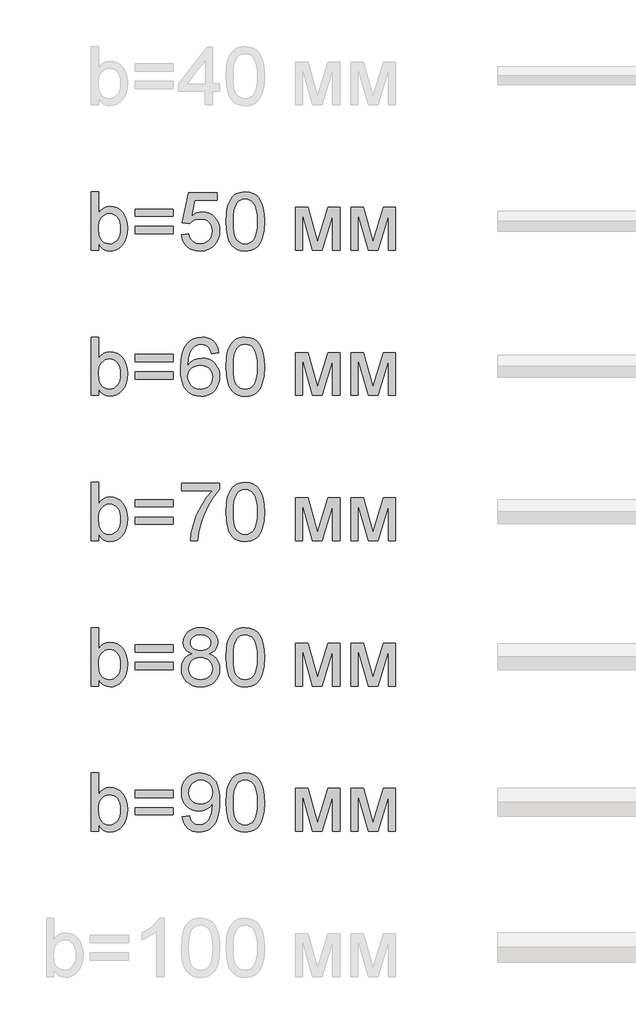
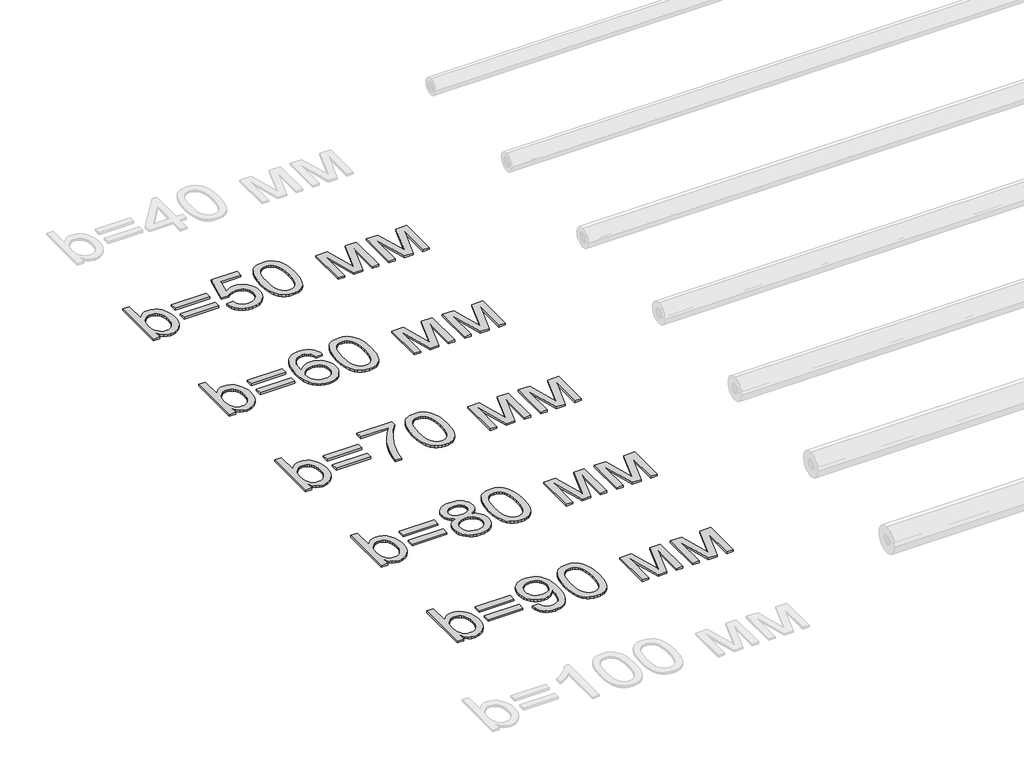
# One storey, part 51 of 86: 5 proxies.
"""IFC4 building model written with IfcOpenShell, lengths in millimetres."""

from ifc_helpers import new_model, si_unit, origin, origin_with_axes, place, context, project, spatial, polyline, outline, extrude, element, save

model = new_model("IFC4")

# Units and contexts
model_context = context("Model", 3, world=origin())
ifc_project = project(units=[si_unit("LENGTHUNIT", "METRE", prefix="MILLI")], contexts=[model_context])

# Site, building, storey
site = spatial("IfcSite", under=ifc_project)
building = spatial("IfcBuilding", under=site)
storey = spatial("IfcBuildingStorey", under=building, Name="Уровень 1", Elevation=0.0)

# Proxies
placement = place(None, origin())
element("IfcBuildingElementProxy", 1, Name="Текст модели 1", ObjectType="Текст модели 1", at=placement, inside=storey, context=model_context, shape_type="SweptSolid", body=[
    extrude(outline(polyline([(23159.6307988, 23169.2937088), (23084.2885662, 23169.2937088), (23084.2885662, 23772.0315697), (23159.6307988, 23772.0315697), (23159.6307988, 23548.5064694), (23184.4076512, 23580.3742473), (23212.3850769, 23603.1369457), (23243.563076, 23616.7945648), (23277.9416484, 23621.3471045), (23316.7531989, 23617.2452202), (23353.4310339, 23604.9395675), (23385.8782258, 23585.2026984), (23411.9978475, 23558.8071653), (23432.4704805, 23526.0104854), (23447.9767066, 23487.0701762), (23457.7439736, 23443.6049185), (23460.9997292, 23397.233393), (23457.6290105, 23343.7249568), (23447.5168541, 23296.6544555), (23430.6632602, 23256.0218892), (23407.0682288, 23221.8272577), (23378.7459136, 23194.7235517), (23347.7104688, 23175.3637617), (23313.9618943, 23163.7478877), (23277.50019, 23159.8759297), (23241.9903805, 23164.8699278), (23210.5088787, 23179.8519221), (23183.0556848, 23204.8219125), (23159.6307988, 23239.7798991), (23159.6307988, 23169.2937088)]), holes=[polyline([(23159.6307988, 23393.7017259), (23164.7811467, 23330.8674811), (23171.2190816, 23307.065516), (23180.2321905, 23288.3403224), (23198.4883345, 23265.0993774), (23219.7059286, 23248.4987024), (23243.8849727, 23238.5382973), (23271.0254669, 23235.2181623), (23293.5582391, 23237.6645776), (23314.5091188, 23245.0038234), (23333.8781058, 23257.2358997), (23351.6652003, 23274.3608066), (23366.5368299, 23296.3325588), (23377.1594225, 23323.105171), (23383.5329781, 23354.6786432), (23385.6574966, 23391.0529755), (23383.6203501, 23428.1170865), (23377.5089104, 23459.9940614), (23367.3231777, 23486.6839001), (23353.0631519, 23508.1866028), (23335.9152524, 23524.7320955), (23317.0658986, 23536.5503046), (23296.5150907, 23543.64123), (23274.2628285, 23546.0048719), (23251.7300563, 23543.5584566), (23230.7791767, 23536.2192108), (23211.4101896, 23523.9871344), (23193.6230951, 23506.8622276), (23178.7514655, 23485.1112046), (23168.1288729, 23459.00078), (23161.7553173, 23428.5309538), (23159.6307988, 23393.7017259)])]), origin_with_axes(), (0.0, 0.0, 1.0), 20.0),
    extrude(outline(polyline([(23931.8886831, 23517.7515346), (23536.3419619, 23517.7515346), (23536.3419619, 23593.0937672), (23931.8886831, 23593.0937672), (23931.8886831, 23517.7515346)])), origin_with_axes(), (0.0, 0.0, 1.0), 20.0),
    extrude(outline(polyline([(23931.8886831, 23338.8137322), (23536.3419619, 23338.8137322), (23536.3419619, 23414.1559648), (23931.8886831, 23414.1559648), (23931.8886831, 23338.8137322)])), origin_with_axes(), (0.0, 0.0, 1.0), 20.0),
    extrude(outline(polyline([(24016.6486948, 23329.3959531), (24091.9909274, 23338.8137322), (24097.6195219, 23314.5933013), (24105.8232904, 23293.5826409), (24116.6022328, 23275.7817508), (24129.9563493, 23261.1906312), (24145.8580485, 23249.8276761), (24164.2797394, 23241.7112795), (24185.221422, 23236.8414416), (24208.6830962, 23235.2181623), (24237.3778919, 23237.4760381), (24262.6881731, 23244.2496653), (24284.61394, 23255.539044), (24303.1551926, 23271.3441743), (24317.8980636, 23290.8833067), (24328.4286857, 23313.3746922), (24334.7470589, 23338.8183307), (24336.8531834, 23367.2142222), (24334.8804162, 23394.0512138), (24328.9621146, 23417.9083611), (24319.0982786, 23438.7856644), (24305.2889082, 23456.6831234), (24287.4880181, 23471.0397183), (24265.6496232, 23481.2944289), (24239.7737234, 23487.4472553), (24209.8603186, 23489.4981974), (24173.3112424, 23486.2240476), (24143.7151359, 23476.4015984), (24120.0787177, 23461.3552248), (24101.4087064, 23442.409302), (24026.0664738, 23451.8270811), (24091.9909274, 23762.6137906), (24383.9420787, 23762.6137906), (24383.9420787, 23687.271558), (24152.9121858, 23687.271558), (24120.685723, 23521.2832018), (24147.2743942, 23540.3394891), (24174.5068589, 23553.951123), (24202.3831171, 23562.1181032), (24230.9031687, 23564.84043), (24267.5947992, 23561.4651127), (24301.2973885, 23551.3391608), (24332.0109366, 23534.4625743), (24359.7354435, 23510.8353531), (24382.6866814, 23481.9014342), (24399.0804228, 23449.1047543), (24408.9166677, 23412.4453135), (24412.195416, 23371.9231117), (24409.243163, 23332.8908321), (24400.3864039, 23296.5808791), (24385.6251389, 23262.993253), (24364.9593678, 23232.1279536), (24333.65261, 23200.5176931), (24297.1219279, 23177.9389357), (24255.3673214, 23164.3916812), (24208.3887906, 23159.8759297), (24169.5082623, 23162.777599), (24134.3893273, 23171.4826067), (24103.0319858, 23185.9909529), (24075.4362376, 23206.3026375), (24052.4758026, 23231.4059852), (24035.0244004, 23260.2893203), (24023.0820311, 23292.952643), (24016.6486948, 23329.3959531)])), origin_with_axes(), (0.0, 0.0, 1.0), 20.0),
    extrude(outline(polyline([(24478.1198695, 23465.8065969), (24483.6564935, 23562.2836501), (24490.5772736, 23603.1967265), (24500.2663656, 23639.2261694), (24512.682383, 23670.6662845), (24527.7839389, 23697.8113772), (24545.5710333, 23720.6614476), (24566.0436664, 23739.2164957), (24589.2708158, 23753.5730906), (24615.3214596, 23763.8278012), (24644.1955977, 23769.9806276), (24675.8932301, 23772.0315697), (24722.3199379, 23767.1755274), (24763.8906034, 23752.6074004), (24798.6554519, 23728.8974058), (24824.664709, 23696.6157607), (24844.3096075, 23656.0383766), (24859.9813805, 23607.4411651), (24870.2452882, 23545.7289604), (24873.6665907, 23465.8065969), (24868.185149, 23369.8813667), (24861.3333468, 23329.106246), (24851.7408238, 23293.1227884), (24839.4213755, 23261.6688778), (24824.3887975, 23234.4823983), (24806.6430897, 23211.56335), (24786.1842523, 23192.9117329), (24762.9295116, 23178.458569), (24736.7960944, 23168.1348805), (24707.7840006, 23161.9406674), (24675.8932301, 23159.8759297), (24634.3961411, 23163.4627792), (24597.6079415, 23174.2233275), (24565.5286316, 23192.1575748), (24538.1582111, 23217.265521), (24511.8914367, 23262.6529621), (24493.1294549, 23319.2056218), (24481.8722659, 23386.9235001), (24478.1198695, 23465.8065969)]), holes=[polyline([(24553.4621021, 23465.9537497), (24555.6693941, 23400.456959), (24562.29127, 23347.440565), (24573.3277299, 23306.9045676), (24588.7787737, 23278.848967), (24607.467179, 23259.7604899), (24628.2157235, 23246.1258635), (24651.0244072, 23237.9450876), (24675.8932301, 23235.2181623), (24700.762053, 23237.9542847), (24723.5707367, 23246.1626517), (24744.3192812, 23259.8432634), (24763.0076866, 23278.9961198), (24778.4587304, 23307.0977057), (24789.4951902, 23347.624506), (24796.1170661, 23400.5765206), (24798.3243581, 23465.9537497), (24796.1906425, 23529.7168965), (24789.7894958, 23581.79979), (24779.120918, 23622.2024301), (24764.184909, 23650.9248169), (24745.8092033, 23670.9467945), (24724.8215355, 23685.248207), (24701.2219055, 23693.8290546), (24675.0103133, 23696.6893371), (24650.2702492, 23694.1693454), (24627.8478415, 23686.6093704), (24607.7430905, 23674.0094121), (24589.955996, 23656.3694704), (24573.9899175, 23625.0995008), (24562.5855756, 23582.9402242), (24555.7429705, 23529.8916405), (24553.4621021, 23465.9537497)])]), origin_with_axes(), (0.0, 0.0, 1.0), 20.0),
    extrude(outline(polyline([(25193.8710793, 23611.9293254), (25323.5126944, 23611.9293254), (25423.4294443, 23257.5853876), (25531.1452925, 23611.9293254), (25655.3422541, 23611.9293254), (25655.3422541, 23169.2937088), (25580.0000215, 23169.2937088), (25580.0000215, 23525.6977857), (25471.6955621, 23169.2937088), (25372.8088818, 23169.2937088), (25269.2133119, 23542.7675103), (25269.2133119, 23169.2937088), (25193.8710793, 23169.2937088), (25193.8710793, 23611.9293254)])), origin_with_axes(), (0.0, 0.0, 1.0), 20.0),
    extrude(outline(polyline([(25768.355603, 23611.9293254), (25897.9972181, 23611.9293254), (25997.913968, 23257.5853876), (26105.6298162, 23611.9293254), (26229.8267777, 23611.9293254), (26229.8267777, 23169.2937088), (26154.4845451, 23169.2937088), (26154.4845451, 23525.6977857), (26046.1800857, 23169.2937088), (25947.2934054, 23169.2937088), (25843.6978356, 23542.7675103), (25843.6978356, 23169.2937088), (25768.355603, 23169.2937088), (25768.355603, 23611.9293254)])), origin_with_axes(), (0.0, 0.0, 1.0), 20.0),
])
element("IfcBuildingElementProxy", 2, Name="Текст модели 1", ObjectType="Текст модели 1", at=placement, inside=storey, context=model_context, shape_type="SweptSolid", body=[
    extrude(outline(polyline([(23159.6307988, 21669.2937088), (23084.2885662, 21669.2937088), (23084.2885662, 22272.0315697), (23159.6307988, 22272.0315697), (23159.6307988, 22048.5064694), (23184.4076512, 22080.3742473), (23212.3850769, 22103.1369457), (23243.563076, 22116.7945648), (23277.9416484, 22121.3471045), (23316.7531989, 22117.2452202), (23353.4310339, 22104.9395675), (23385.8782258, 22085.2026984), (23411.9978475, 22058.8071653), (23432.4704805, 22026.0104854), (23447.9767066, 21987.0701762), (23457.7439736, 21943.6049185), (23460.9997292, 21897.233393), (23457.6290105, 21843.7249568), (23447.5168541, 21796.6544555), (23430.6632602, 21756.0218892), (23407.0682288, 21721.8272577), (23378.7459136, 21694.7235517), (23347.7104688, 21675.3637617), (23313.9618943, 21663.7478877), (23277.50019, 21659.8759297), (23241.9903805, 21664.8699278), (23210.5088787, 21679.8519221), (23183.0556848, 21704.8219125), (23159.6307988, 21739.7798991), (23159.6307988, 21669.2937088)]), holes=[polyline([(23159.6307988, 21893.7017259), (23164.7811467, 21830.8674811), (23171.2190816, 21807.065516), (23180.2321905, 21788.3403224), (23198.4883345, 21765.0993774), (23219.7059286, 21748.4987024), (23243.8849727, 21738.5382973), (23271.0254669, 21735.2181623), (23293.5582391, 21737.6645776), (23314.5091188, 21745.0038234), (23333.8781058, 21757.2358997), (23351.6652003, 21774.3608066), (23366.5368299, 21796.3325588), (23377.1594225, 21823.105171), (23383.5329781, 21854.6786432), (23385.6574966, 21891.0529755), (23383.6203501, 21928.1170865), (23377.5089104, 21959.9940614), (23367.3231777, 21986.6839001), (23353.0631519, 22008.1866028), (23335.9152524, 22024.7320955), (23317.0658986, 22036.5503046), (23296.5150907, 22043.64123), (23274.2628285, 22046.0048719), (23251.7300563, 22043.5584566), (23230.7791767, 22036.2192108), (23211.4101896, 22023.9871344), (23193.6230951, 22006.8622276), (23178.7514655, 21985.1112046), (23168.1288729, 21959.00078), (23161.7553173, 21928.5309538), (23159.6307988, 21893.7017259)])]), origin_with_axes(), (0.0, 0.0, 1.0), 20.0),
    extrude(outline(polyline([(23931.8886831, 22017.7515346), (23536.3419619, 22017.7515346), (23536.3419619, 22093.0937672), (23931.8886831, 22093.0937672), (23931.8886831, 22017.7515346)])), origin_with_axes(), (0.0, 0.0, 1.0), 20.0),
    extrude(outline(polyline([(23931.8886831, 21838.8137322), (23536.3419619, 21838.8137322), (23536.3419619, 21914.1559648), (23931.8886831, 21914.1559648), (23931.8886831, 21838.8137322)])), origin_with_axes(), (0.0, 0.0, 1.0), 20.0),
    extrude(outline(polyline([(24402.7776369, 22111.9293254), (24327.4354043, 22102.5115463), (24315.2952984, 22139.8515688), (24298.8877615, 22165.3457911), (24282.6917566, 22179.0585925), (24264.7115241, 22188.8534506), (24244.9470639, 22194.7303655), (24223.398376, 22196.6893371), (24188.3760101, 22192.1276003), (24155.4137833, 22178.4423901), (24127.1052638, 22149.6188358), (24103.9838804, 22109.9427626), (24094.9477789, 22084.6370799), (24088.3672897, 22053.8223643), (24082.5731483, 21975.6658344), (24112.7946542, 22010.9273236), (24149.0126366, 22035.7777524), (24189.2037446, 22050.5114263), (24231.3446271, 22055.4226509), (24267.5442155, 22052.0657277), (24300.9479006, 22041.9949581), (24331.5556826, 22025.2103421), (24359.3675615, 22001.7118796), (24382.4797478, 21972.8975224), (24398.9884523, 21940.1652218), (24408.8936751, 21903.5149781), (24412.195416, 21862.9467911), (24410.6411145, 21835.4798016), (24405.9782103, 21808.9968965), (24398.2067031, 21783.4980757), (24387.3265931, 21758.9833392), (24373.7241563, 21736.3677936), (24357.7856689, 21716.5665452), (24339.5111308, 21699.5795941), (24318.900542, 21685.4069402), (24296.3953609, 21674.2371231), (24272.437046, 21666.2586823), (24247.0255972, 21661.4716179), (24220.1610145, 21659.8759297), (24175.2472214, 21664.1065727), (24134.6836329, 21676.7985015), (24098.470249, 21697.9517162), (24066.6070697, 21727.5662168), (24040.6300023, 21766.8928021), (24022.0749542, 21817.1822709), (24010.9419253, 21878.4346231), (24007.2309157, 21950.6498587), (24011.351194, 22031.6114888), (24023.7120291, 22100.7089245), (24044.3134208, 22157.9421659), (24057.7043254, 22182.1097138), (24073.1553692, 22203.311213), (24104.4161418, 22233.3763691), (24140.6617153, 22254.8514805), (24181.8920899, 22267.7365474), (24228.1072656, 22272.0315697), (24262.8077348, 22269.3736223), (24294.2156601, 22261.39978), (24322.3310416, 22248.110043), (24347.1538792, 22229.5044111), (24368.0127884, 22206.2082837), (24384.2363843, 22178.8470603), (24395.8246672, 22147.4207409), (24402.7776369, 22111.9293254)]), holes=[polyline([(24082.5731483, 21864.1240134), (24086.9325499, 21830.7387224), (24100.0107549, 21798.8617475), (24120.317841, 21771.4545389), (24146.3638863, 21751.4785465), (24177.7994027, 21739.2832584), (24214.2749026, 21735.2181623), (24240.4635021, 21737.3242868), (24263.9941542, 21743.64266), (24284.8668589, 21754.1732821), (24303.0816162, 21768.9161531), (24317.8566768, 21787.2734647), (24328.4102916, 21808.6474086), (24334.7424604, 21833.0379849), (24336.8531834, 21860.4451935), (24334.7700516, 21886.7809458), (24328.5206562, 21910.1644451), (24318.1049972, 21930.5956914), (24303.5230746, 21948.0746847), (24285.253135, 21962.0771932), (24263.773425, 21972.0789849), (24239.0839446, 21978.08006), (24211.1846938, 21980.0804183), (24185.3455822, 21978.08006), (24161.5390186, 21972.0789849), (24139.765003, 21962.0771932), (24120.0235354, 21948.0746847), (24103.638991, 21930.8256177), (24091.9357451, 21911.0841501), (24084.9137975, 21888.850282), (24082.5731483, 21864.1240134)])]), origin_with_axes(), (0.0, 0.0, 1.0), 20.0),
    extrude(outline(polyline([(24478.1198695, 21965.8065969), (24483.6564935, 22062.2836501), (24490.5772736, 22103.1967265), (24500.2663656, 22139.2261694), (24512.682383, 22170.6662845), (24527.7839389, 22197.8113772), (24545.5710333, 22220.6614476), (24566.0436664, 22239.2164957), (24589.2708158, 22253.5730906), (24615.3214596, 22263.8278012), (24644.1955977, 22269.9806276), (24675.8932301, 22272.0315697), (24722.3199379, 22267.1755274), (24763.8906034, 22252.6074004), (24798.6554519, 22228.8974058), (24824.664709, 22196.6157607), (24844.3096075, 22156.0383766), (24859.9813805, 22107.4411651), (24870.2452882, 22045.7289604), (24873.6665907, 21965.8065969), (24868.185149, 21869.8813667), (24861.3333468, 21829.106246), (24851.7408238, 21793.1227884), (24839.4213755, 21761.6688778), (24824.3887975, 21734.4823983), (24806.6430897, 21711.56335), (24786.1842523, 21692.9117329), (24762.9295116, 21678.458569), (24736.7960944, 21668.1348805), (24707.7840006, 21661.9406674), (24675.8932301, 21659.8759297), (24634.3961411, 21663.4627792), (24597.6079415, 21674.2233275), (24565.5286316, 21692.1575748), (24538.1582111, 21717.265521), (24511.8914367, 21762.6529621), (24493.1294549, 21819.2056218), (24481.8722659, 21886.9235001), (24478.1198695, 21965.8065969)]), holes=[polyline([(24553.4621021, 21965.9537497), (24555.6693941, 21900.456959), (24562.29127, 21847.440565), (24573.3277299, 21806.9045676), (24588.7787737, 21778.848967), (24607.467179, 21759.7604899), (24628.2157235, 21746.1258635), (24651.0244072, 21737.9450876), (24675.8932301, 21735.2181623), (24700.762053, 21737.9542847), (24723.5707367, 21746.1626517), (24744.3192812, 21759.8432634), (24763.0076866, 21778.9961198), (24778.4587304, 21807.0977057), (24789.4951902, 21847.624506), (24796.1170661, 21900.5765206), (24798.3243581, 21965.9537497), (24796.1906425, 22029.7168965), (24789.7894958, 22081.79979), (24779.120918, 22122.2024301), (24764.184909, 22150.9248169), (24745.8092033, 22170.9467945), (24724.8215355, 22185.248207), (24701.2219055, 22193.8290546), (24675.0103133, 22196.6893371), (24650.2702492, 22194.1693454), (24627.8478415, 22186.6093704), (24607.7430905, 22174.0094121), (24589.955996, 22156.3694704), (24573.9899175, 22125.0995008), (24562.5855756, 22082.9402242), (24555.7429705, 22029.8916405), (24553.4621021, 21965.9537497)])]), origin_with_axes(), (0.0, 0.0, 1.0), 20.0),
    extrude(outline(polyline([(25193.8710793, 22111.9293254), (25323.5126944, 22111.9293254), (25423.4294443, 21757.5853876), (25531.1452925, 22111.9293254), (25655.3422541, 22111.9293254), (25655.3422541, 21669.2937088), (25580.0000215, 21669.2937088), (25580.0000215, 22025.6977857), (25471.6955621, 21669.2937088), (25372.8088818, 21669.2937088), (25269.2133119, 22042.7675103), (25269.2133119, 21669.2937088), (25193.8710793, 21669.2937088), (25193.8710793, 22111.9293254)])), origin_with_axes(), (0.0, 0.0, 1.0), 20.0),
    extrude(outline(polyline([(25768.355603, 22111.9293254), (25897.9972181, 22111.9293254), (25997.913968, 21757.5853876), (26105.6298162, 22111.9293254), (26229.8267777, 22111.9293254), (26229.8267777, 21669.2937088), (26154.4845451, 21669.2937088), (26154.4845451, 22025.6977857), (26046.1800857, 21669.2937088), (25947.2934054, 21669.2937088), (25843.6978356, 22042.7675103), (25843.6978356, 21669.2937088), (25768.355603, 21669.2937088), (25768.355603, 22111.9293254)])), origin_with_axes(), (0.0, 0.0, 1.0), 20.0),
])
element("IfcBuildingElementProxy", 3, Name="Текст модели 1", ObjectType="Текст модели 1", at=placement, inside=storey, context=model_context, shape_type="SweptSolid", body=[
    extrude(outline(polyline([(23159.6307988, 20169.2937088), (23084.2885662, 20169.2937088), (23084.2885662, 20772.0315697), (23159.6307988, 20772.0315697), (23159.6307988, 20548.5064694), (23184.4076512, 20580.3742473), (23212.3850769, 20603.1369457), (23243.563076, 20616.7945648), (23277.9416484, 20621.3471045), (23316.7531989, 20617.2452202), (23353.4310339, 20604.9395675), (23385.8782258, 20585.2026984), (23411.9978475, 20558.8071653), (23432.4704805, 20526.0104854), (23447.9767066, 20487.0701762), (23457.7439736, 20443.6049185), (23460.9997292, 20397.233393), (23457.6290105, 20343.7249568), (23447.5168541, 20296.6544555), (23430.6632602, 20256.0218892), (23407.0682288, 20221.8272577), (23378.7459136, 20194.7235517), (23347.7104688, 20175.3637617), (23313.9618943, 20163.7478877), (23277.50019, 20159.8759297), (23241.9903805, 20164.8699278), (23210.5088787, 20179.8519221), (23183.0556848, 20204.8219125), (23159.6307988, 20239.7798991), (23159.6307988, 20169.2937088)]), holes=[polyline([(23159.6307988, 20393.7017259), (23164.7811467, 20330.8674811), (23171.2190816, 20307.065516), (23180.2321905, 20288.3403224), (23198.4883345, 20265.0993774), (23219.7059286, 20248.4987024), (23243.8849727, 20238.5382973), (23271.0254669, 20235.2181623), (23293.5582391, 20237.6645776), (23314.5091188, 20245.0038234), (23333.8781058, 20257.2358997), (23351.6652003, 20274.3608066), (23366.5368299, 20296.3325588), (23377.1594225, 20323.105171), (23383.5329781, 20354.6786432), (23385.6574966, 20391.0529755), (23383.6203501, 20428.1170865), (23377.5089104, 20459.9940614), (23367.3231777, 20486.6839001), (23353.0631519, 20508.1866028), (23335.9152524, 20524.7320955), (23317.0658986, 20536.5503046), (23296.5150907, 20543.64123), (23274.2628285, 20546.0048719), (23251.7300563, 20543.5584566), (23230.7791767, 20536.2192108), (23211.4101896, 20523.9871344), (23193.6230951, 20506.8622276), (23178.7514655, 20485.1112046), (23168.1288729, 20459.00078), (23161.7553173, 20428.5309538), (23159.6307988, 20393.7017259)])]), origin_with_axes(), (0.0, 0.0, 1.0), 20.0),
    extrude(outline(polyline([(23931.8886831, 20517.7515346), (23536.3419619, 20517.7515346), (23536.3419619, 20593.0937672), (23931.8886831, 20593.0937672), (23931.8886831, 20517.7515346)])), origin_with_axes(), (0.0, 0.0, 1.0), 20.0),
    extrude(outline(polyline([(23931.8886831, 20338.8137322), (23536.3419619, 20338.8137322), (23536.3419619, 20414.1559648), (23931.8886831, 20414.1559648), (23931.8886831, 20338.8137322)])), origin_with_axes(), (0.0, 0.0, 1.0), 20.0),
    extrude(outline(polyline([(24016.6486948, 20687.271558), (24016.6486948, 20762.6137906), (24412.195416, 20762.6137906), (24412.195416, 20701.6925322), (24355.8175002, 20630.3418193), (24299.9914074, 20539.6037251), (24250.7504024, 20437.7555948), (24230.861782, 20385.7692703), (24214.1277498, 20333.0747731), (24196.1751084, 20254.7526963), (24186.1687181, 20169.2937088), (24110.8264855, 20169.2937088), (24118.9750717, 20246.953598), (24140.7720799, 20339.2551906), (24156.6415895, 20388.6203558), (24175.628899, 20437.0934072), (24197.7340084, 20484.6743447), (24222.9569177, 20531.3631685), (24278.2127933, 20616.5830326), (24336.8531834, 20687.271558), (24016.6486948, 20687.271558)])), origin_with_axes(), (0.0, 0.0, 1.0), 20.0),
    extrude(outline(polyline([(24478.1198695, 20465.8065969), (24483.6564935, 20562.2836501), (24490.5772736, 20603.1967265), (24500.2663656, 20639.2261694), (24512.682383, 20670.6662845), (24527.7839389, 20697.8113772), (24545.5710333, 20720.6614476), (24566.0436664, 20739.2164957), (24589.2708158, 20753.5730906), (24615.3214596, 20763.8278012), (24644.1955977, 20769.9806276), (24675.8932301, 20772.0315697), (24722.3199379, 20767.1755274), (24763.8906034, 20752.6074004), (24798.6554519, 20728.8974058), (24824.664709, 20696.6157607), (24844.3096075, 20656.0383766), (24859.9813805, 20607.4411651), (24870.2452882, 20545.7289604), (24873.6665907, 20465.8065969), (24868.185149, 20369.8813667), (24861.3333468, 20329.106246), (24851.7408238, 20293.1227884), (24839.4213755, 20261.6688778), (24824.3887975, 20234.4823983), (24806.6430897, 20211.56335), (24786.1842523, 20192.9117329), (24762.9295116, 20178.458569), (24736.7960944, 20168.1348805), (24707.7840006, 20161.9406674), (24675.8932301, 20159.8759297), (24634.3961411, 20163.4627792), (24597.6079415, 20174.2233275), (24565.5286316, 20192.1575748), (24538.1582111, 20217.265521), (24511.8914367, 20262.6529621), (24493.1294549, 20319.2056218), (24481.8722659, 20386.9235001), (24478.1198695, 20465.8065969)]), holes=[polyline([(24553.4621021, 20465.9537497), (24555.6693941, 20400.456959), (24562.29127, 20347.440565), (24573.3277299, 20306.9045676), (24588.7787737, 20278.848967), (24607.467179, 20259.7604899), (24628.2157235, 20246.1258635), (24651.0244072, 20237.9450876), (24675.8932301, 20235.2181623), (24700.762053, 20237.9542847), (24723.5707367, 20246.1626517), (24744.3192812, 20259.8432634), (24763.0076866, 20278.9961198), (24778.4587304, 20307.0977057), (24789.4951902, 20347.624506), (24796.1170661, 20400.5765206), (24798.3243581, 20465.9537497), (24796.1906425, 20529.7168965), (24789.7894958, 20581.79979), (24779.120918, 20622.2024301), (24764.184909, 20650.9248169), (24745.8092033, 20670.9467945), (24724.8215355, 20685.248207), (24701.2219055, 20693.8290546), (24675.0103133, 20696.6893371), (24650.2702492, 20694.1693454), (24627.8478415, 20686.6093704), (24607.7430905, 20674.0094121), (24589.955996, 20656.3694704), (24573.9899175, 20625.0995008), (24562.5855756, 20582.9402242), (24555.7429705, 20529.8916405), (24553.4621021, 20465.9537497)])]), origin_with_axes(), (0.0, 0.0, 1.0), 20.0),
    extrude(outline(polyline([(25193.8710793, 20611.9293254), (25323.5126944, 20611.9293254), (25423.4294443, 20257.5853876), (25531.1452925, 20611.9293254), (25655.3422541, 20611.9293254), (25655.3422541, 20169.2937088), (25580.0000215, 20169.2937088), (25580.0000215, 20525.6977857), (25471.6955621, 20169.2937088), (25372.8088818, 20169.2937088), (25269.2133119, 20542.7675103), (25269.2133119, 20169.2937088), (25193.8710793, 20169.2937088), (25193.8710793, 20611.9293254)])), origin_with_axes(), (0.0, 0.0, 1.0), 20.0),
    extrude(outline(polyline([(25768.355603, 20611.9293254), (25897.9972181, 20611.9293254), (25997.913968, 20257.5853876), (26105.6298162, 20611.9293254), (26229.8267777, 20611.9293254), (26229.8267777, 20169.2937088), (26154.4845451, 20169.2937088), (26154.4845451, 20525.6977857), (26046.1800857, 20169.2937088), (25947.2934054, 20169.2937088), (25843.6978356, 20542.7675103), (25843.6978356, 20169.2937088), (25768.355603, 20169.2937088), (25768.355603, 20611.9293254)])), origin_with_axes(), (0.0, 0.0, 1.0), 20.0),
])
element("IfcBuildingElementProxy", 4, Name="Текст модели 1", ObjectType="Текст модели 1", at=placement, inside=storey, context=model_context, shape_type="SweptSolid", body=[
    extrude(outline(polyline([(23159.6307988, 18669.2937088), (23084.2885662, 18669.2937088), (23084.2885662, 19272.0315697), (23159.6307988, 19272.0315697), (23159.6307988, 19048.5064694), (23184.4076512, 19080.3742473), (23212.3850769, 19103.1369457), (23243.563076, 19116.7945648), (23277.9416484, 19121.3471045), (23316.7531989, 19117.2452202), (23353.4310339, 19104.9395675), (23385.8782258, 19085.2026984), (23411.9978475, 19058.8071653), (23432.4704805, 19026.0104854), (23447.9767066, 18987.0701762), (23457.7439736, 18943.6049185), (23460.9997292, 18897.233393), (23457.6290105, 18843.7249568), (23447.5168541, 18796.6544555), (23430.6632602, 18756.0218892), (23407.0682288, 18721.8272577), (23378.7459136, 18694.7235517), (23347.7104688, 18675.3637617), (23313.9618943, 18663.7478877), (23277.50019, 18659.8759297), (23241.9903805, 18664.8699278), (23210.5088787, 18679.8519221), (23183.0556848, 18704.8219125), (23159.6307988, 18739.7798991), (23159.6307988, 18669.2937088)]), holes=[polyline([(23159.6307988, 18893.7017259), (23164.7811467, 18830.8674811), (23171.2190816, 18807.065516), (23180.2321905, 18788.3403224), (23198.4883345, 18765.0993774), (23219.7059286, 18748.4987024), (23243.8849727, 18738.5382973), (23271.0254669, 18735.2181623), (23293.5582391, 18737.6645776), (23314.5091188, 18745.0038234), (23333.8781058, 18757.2358997), (23351.6652003, 18774.3608066), (23366.5368299, 18796.3325588), (23377.1594225, 18823.105171), (23383.5329781, 18854.6786432), (23385.6574966, 18891.0529755), (23383.6203501, 18928.1170865), (23377.5089104, 18959.9940614), (23367.3231777, 18986.6839001), (23353.0631519, 19008.1866028), (23335.9152524, 19024.7320955), (23317.0658986, 19036.5503046), (23296.5150907, 19043.64123), (23274.2628285, 19046.0048719), (23251.7300563, 19043.5584566), (23230.7791767, 19036.2192108), (23211.4101896, 19023.9871344), (23193.6230951, 19006.8622276), (23178.7514655, 18985.1112046), (23168.1288729, 18959.00078), (23161.7553173, 18928.5309538), (23159.6307988, 18893.7017259)])]), origin_with_axes(), (0.0, 0.0, 1.0), 20.0),
    extrude(outline(polyline([(23931.8886831, 19017.7515346), (23536.3419619, 19017.7515346), (23536.3419619, 19093.0937672), (23931.8886831, 19093.0937672), (23931.8886831, 19017.7515346)])), origin_with_axes(), (0.0, 0.0, 1.0), 20.0),
    extrude(outline(polyline([(23931.8886831, 18838.8137322), (23536.3419619, 18838.8137322), (23536.3419619, 18914.1559648), (23931.8886831, 18914.1559648), (23931.8886831, 18838.8137322)])), origin_with_axes(), (0.0, 0.0, 1.0), 20.0),
    extrude(outline(polyline([(24126.4246821, 19001.2704212), (24086.0864213, 19021.136049), (24070.4284439, 19033.7176132), (24057.7779018, 19048.065011), (24041.0576651, 19081.5054844), (24035.4842529, 19120.9056461), (24038.5192794, 19151.6329897), (24047.6243588, 19179.8035535), (24062.7994911, 19205.4173374), (24084.0446763, 19228.4743415), (24110.3390419, 19247.5306288), (24140.6617153, 19261.1422626), (24175.0126966, 19269.3092429), (24213.3919858, 19272.0315697), (24251.9552159, 19269.2448636), (24286.5637146, 19260.8847452), (24317.2174819, 19246.9512147), (24343.9165177, 19227.4442719), (24365.547979, 19203.9366124), (24380.9990228, 19178.0009317), (24390.2696491, 19149.6372299), (24393.3598578, 19118.8455069), (24387.860022, 19080.7145381), (24371.3605145, 19047.8442818), (24358.9398986, 19033.593453), (24343.6773944, 19021.0808667), (24304.6267206, 19001.2704212), (24329.3897774, 18990.7352006), (24350.9982461, 18977.3764857), (24369.4521267, 18961.1942764), (24384.7514191, 18942.1885728), (24396.7581677, 18920.7824392), (24405.3344168, 18897.3989399), (24410.4801662, 18872.0380749), (24412.195416, 18844.6998441), (24408.7925075, 18807.1206983), (24398.5837822, 18772.6685494), (24381.5692399, 18741.3433976), (24357.7488807, 18713.1452426), (24328.3735034, 18689.8399182), (24294.6939067, 18673.1932579), (24256.7100907, 18663.2052618), (24214.4220554, 18659.8759297), (24172.13402, 18663.2190574), (24134.150204, 18673.2484402), (24100.4706074, 18689.9640784), (24071.09523, 18713.3659718), (24047.2748709, 18741.7618633), (24030.2603286, 18773.4594957), (24020.0516032, 18808.458869), (24016.6486948, 18846.7599833), (24018.4329224, 18875.3444143), (24023.7856055, 18901.5008242), (24032.7067438, 18925.2292128), (24045.1963376, 18946.5295804), (24060.9784752, 18965.0156506), (24079.7772451, 18980.3011475), (24101.5926474, 18992.3860711), (24126.4246821, 19001.2704212)]), holes=[polyline([(24110.8264855, 19118.6983541), (24112.4957501, 19101.4262944), (24117.5035437, 19085.8097037), (24125.8498665, 19071.848582), (24137.5347184, 19059.5429293), (24152.4109466, 19049.4997508), (24170.3313982, 19042.3260519), (24191.2960734, 19038.0218326), (24215.3049722, 19036.5870928), (24238.7206611, 19038.0126355), (24259.2300824, 19042.2892637), (24276.8332358, 19049.4169774), (24291.5301216, 19059.3957765), (24303.1184044, 19071.4439118), (24311.3957493, 19084.7796342), (24316.3621562, 19099.4029435), (24318.0176252, 19115.3138398), (24316.3069739, 19131.8455369), (24311.1750201, 19147.0068736), (24302.6217637, 19160.7978499), (24290.6472048, 19173.2184658), (24275.6192253, 19183.486972), (24257.9057072, 19190.8216193), (24237.5066506, 19195.2224076), (24214.4220554, 19196.6893371), (24191.1581177, 19195.2545973), (24170.662492, 19190.950378), (24152.9351784, 19183.7766791), (24137.9761768, 19173.7335006), (24126.0981868, 19161.6853652), (24117.6139083, 19148.4967957), (24112.5233412, 19134.167792), (24110.8264855, 19118.6983541)]), polyline([(24091.9909274, 18849.4087336), (24095.1363184, 18820.5851793), (24104.5724916, 18792.68133), (24121.9917041, 18768.345936), (24149.086213, 18750.2277477), (24181.533405, 18738.9705587), (24215.0106666, 18735.2181623), (24242.2523283, 18737.1909295), (24266.2934167, 18743.1092311), (24287.1339317, 18752.9730671), (24304.7738734, 18766.7824375), (24318.8085715, 18783.6360314), (24328.8333559, 18802.632538), (24334.8482265, 18823.7719571), (24336.8531834, 18847.0542889), (24334.7838471, 18870.7091012), (24328.5758385, 18892.2301979), (24318.2291574, 18911.617579), (24303.7438038, 18928.8712446), (24285.6256155, 18943.0347014), (24264.3804303, 18953.1514563), (24240.0082481, 18959.2215092), (24212.509069, 18961.2448602), (24185.6674789, 18959.2491003), (24161.9436888, 18953.2618209), (24141.3376985, 18943.2830218), (24123.8495082, 18929.312703), (24109.9113791, 18912.344146), (24099.9555726, 18893.3706321), (24093.9820887, 18872.3921613), (24091.9909274, 18849.4087336)])]), origin_with_axes(), (0.0, 0.0, 1.0), 20.0),
    extrude(outline(polyline([(24478.1198695, 18965.8065969), (24483.6564935, 19062.2836501), (24490.5772736, 19103.1967265), (24500.2663656, 19139.2261694), (24512.682383, 19170.6662845), (24527.7839389, 19197.8113772), (24545.5710333, 19220.6614476), (24566.0436664, 19239.2164957), (24589.2708158, 19253.5730906), (24615.3214596, 19263.8278012), (24644.1955977, 19269.9806276), (24675.8932301, 19272.0315697), (24722.3199379, 19267.1755274), (24763.8906034, 19252.6074004), (24798.6554519, 19228.8974058), (24824.664709, 19196.6157607), (24844.3096075, 19156.0383766), (24859.9813805, 19107.4411651), (24870.2452882, 19045.7289604), (24873.6665907, 18965.8065969), (24868.185149, 18869.8813667), (24861.3333468, 18829.106246), (24851.7408238, 18793.1227884), (24839.4213755, 18761.6688778), (24824.3887975, 18734.4823983), (24806.6430897, 18711.56335), (24786.1842523, 18692.9117329), (24762.9295116, 18678.458569), (24736.7960944, 18668.1348805), (24707.7840006, 18661.9406674), (24675.8932301, 18659.8759297), (24634.3961411, 18663.4627792), (24597.6079415, 18674.2233275), (24565.5286316, 18692.1575748), (24538.1582111, 18717.265521), (24511.8914367, 18762.6529621), (24493.1294549, 18819.2056218), (24481.8722659, 18886.9235001), (24478.1198695, 18965.8065969)]), holes=[polyline([(24553.4621021, 18965.9537497), (24555.6693941, 18900.456959), (24562.29127, 18847.440565), (24573.3277299, 18806.9045676), (24588.7787737, 18778.848967), (24607.467179, 18759.7604899), (24628.2157235, 18746.1258635), (24651.0244072, 18737.9450876), (24675.8932301, 18735.2181623), (24700.762053, 18737.9542847), (24723.5707367, 18746.1626517), (24744.3192812, 18759.8432634), (24763.0076866, 18778.9961198), (24778.4587304, 18807.0977057), (24789.4951902, 18847.624506), (24796.1170661, 18900.5765206), (24798.3243581, 18965.9537497), (24796.1906425, 19029.7168965), (24789.7894958, 19081.79979), (24779.120918, 19122.2024301), (24764.184909, 19150.9248169), (24745.8092033, 19170.9467945), (24724.8215355, 19185.248207), (24701.2219055, 19193.8290546), (24675.0103133, 19196.6893371), (24650.2702492, 19194.1693454), (24627.8478415, 19186.6093704), (24607.7430905, 19174.0094121), (24589.955996, 19156.3694704), (24573.9899175, 19125.0995008), (24562.5855756, 19082.9402242), (24555.7429705, 19029.8916405), (24553.4621021, 18965.9537497)])]), origin_with_axes(), (0.0, 0.0, 1.0), 20.0),
    extrude(outline(polyline([(25193.8710793, 19111.9293254), (25323.5126944, 19111.9293254), (25423.4294443, 18757.5853876), (25531.1452925, 19111.9293254), (25655.3422541, 19111.9293254), (25655.3422541, 18669.2937088), (25580.0000215, 18669.2937088), (25580.0000215, 19025.6977857), (25471.6955621, 18669.2937088), (25372.8088818, 18669.2937088), (25269.2133119, 19042.7675103), (25269.2133119, 18669.2937088), (25193.8710793, 18669.2937088), (25193.8710793, 19111.9293254)])), origin_with_axes(), (0.0, 0.0, 1.0), 20.0),
    extrude(outline(polyline([(25768.355603, 19111.9293254), (25897.9972181, 19111.9293254), (25997.913968, 18757.5853876), (26105.6298162, 19111.9293254), (26229.8267777, 19111.9293254), (26229.8267777, 18669.2937088), (26154.4845451, 18669.2937088), (26154.4845451, 19025.6977857), (26046.1800857, 18669.2937088), (25947.2934054, 18669.2937088), (25843.6978356, 19042.7675103), (25843.6978356, 18669.2937088), (25768.355603, 18669.2937088), (25768.355603, 19111.9293254)])), origin_with_axes(), (0.0, 0.0, 1.0), 20.0),
])
element("IfcBuildingElementProxy", 5, Name="Текст модели 1", ObjectType="Текст модели 1", at=placement, inside=storey, context=model_context, shape_type="SweptSolid", body=[
    extrude(outline(polyline([(23159.6307988, 17169.2937088), (23084.2885662, 17169.2937088), (23084.2885662, 17772.0315697), (23159.6307988, 17772.0315697), (23159.6307988, 17548.5064694), (23184.4076512, 17580.3742473), (23212.3850769, 17603.1369457), (23243.563076, 17616.7945648), (23277.9416484, 17621.3471045), (23316.7531989, 17617.2452202), (23353.4310339, 17604.9395675), (23385.8782258, 17585.2026984), (23411.9978475, 17558.8071653), (23432.4704805, 17526.0104854), (23447.9767066, 17487.0701762), (23457.7439736, 17443.6049185), (23460.9997292, 17397.233393), (23457.6290105, 17343.7249568), (23447.5168541, 17296.6544555), (23430.6632602, 17256.0218892), (23407.0682288, 17221.8272577), (23378.7459136, 17194.7235517), (23347.7104688, 17175.3637617), (23313.9618943, 17163.7478877), (23277.50019, 17159.8759297), (23241.9903805, 17164.8699278), (23210.5088787, 17179.8519221), (23183.0556848, 17204.8219125), (23159.6307988, 17239.7798991), (23159.6307988, 17169.2937088)]), holes=[polyline([(23159.6307988, 17393.7017259), (23164.7811467, 17330.8674811), (23171.2190816, 17307.065516), (23180.2321905, 17288.3403224), (23198.4883345, 17265.0993774), (23219.7059286, 17248.4987024), (23243.8849727, 17238.5382973), (23271.0254669, 17235.2181623), (23293.5582391, 17237.6645776), (23314.5091188, 17245.0038234), (23333.8781058, 17257.2358997), (23351.6652003, 17274.3608066), (23366.5368299, 17296.3325588), (23377.1594225, 17323.105171), (23383.5329781, 17354.6786432), (23385.6574966, 17391.0529755), (23383.6203501, 17428.1170865), (23377.5089104, 17459.9940614), (23367.3231777, 17486.6839001), (23353.0631519, 17508.1866028), (23335.9152524, 17524.7320955), (23317.0658986, 17536.5503046), (23296.5150907, 17543.64123), (23274.2628285, 17546.0048719), (23251.7300563, 17543.5584566), (23230.7791767, 17536.2192108), (23211.4101896, 17523.9871344), (23193.6230951, 17506.8622276), (23178.7514655, 17485.1112046), (23168.1288729, 17459.00078), (23161.7553173, 17428.5309538), (23159.6307988, 17393.7017259)])]), origin_with_axes(), (0.0, 0.0, 1.0), 20.0),
    extrude(outline(polyline([(23931.8886831, 17517.7515346), (23536.3419619, 17517.7515346), (23536.3419619, 17593.0937672), (23931.8886831, 17593.0937672), (23931.8886831, 17517.7515346)])), origin_with_axes(), (0.0, 0.0, 1.0), 20.0),
    extrude(outline(polyline([(23931.8886831, 17338.8137322), (23536.3419619, 17338.8137322), (23536.3419619, 17414.1559648), (23931.8886831, 17414.1559648), (23931.8886831, 17338.8137322)])), origin_with_axes(), (0.0, 0.0, 1.0), 20.0),
    extrude(outline(polyline([(24026.0664738, 17319.978174), (24101.4087064, 17329.3959531), (24114.2845763, 17286.6296712), (24123.7575377, 17270.3646884), (24135.25385, 17257.5118112), (24148.6447546, 17247.7583398), (24163.8014928, 17240.7915746), (24199.41247, 17235.2181623), (24231.3630212, 17238.8050118), (24260.4073048, 17249.5655601), (24284.5403636, 17266.322585), (24301.757241, 17287.898864), (24314.7986577, 17316.2625659), (24326.4053347, 17353.3818592), (24334.572315, 17395.9825942), (24337.2946418, 17440.7906212), (24336.8531834, 17455.505901), (24310.7519558, 17423.6473203), (24276.5941125, 17398.4106154), (24236.844463, 17381.9662902), (24193.9678164, 17376.4848485), (24158.1774968, 17379.8325746), (24125.2658538, 17389.8757531), (24095.2328875, 17406.6143839), (24068.0785977, 17430.048467), (24045.5780152, 17458.9547948), (24029.5061705, 17492.1101596), (24019.8630637, 17529.5145614), (24016.6486948, 17571.1680003), (24020.0194135, 17614.2101938), (24030.1315699, 17652.8378033), (24046.9851638, 17687.0508288), (24070.5801953, 17716.8492704), (24099.2519983, 17740.9915264), (24131.3359068, 17758.2359949), (24166.8319208, 17768.582676), (24205.7400403, 17772.0315697), (24234.4670256, 17770.063401), (24261.934015, 17764.158895), (24288.1410087, 17754.3180516), (24313.0880065, 17740.5408709), (24335.9426754, 17723.1216584), (24355.8726825, 17702.3547198), (24372.8780277, 17678.240055), (24386.9587111, 17650.7776641), (24397.9997695, 17618.3856544), (24405.8862398, 17579.4821334), (24410.6181219, 17534.0671011), (24412.195416, 17482.1405575), (24410.6227204, 17427.6066502), (24405.9046339, 17378.9312638), (24398.0411562, 17336.114398), (24387.0322875, 17299.1560531), (24372.9194145, 17267.154918), (24355.7439238, 17239.209682), (24335.5058156, 17215.3203449), (24312.2050897, 17195.4869069), (24286.3107957, 17179.9071044), (24258.2919833, 17168.778674), (24228.1486523, 17162.1016158), (24195.8808028, 17159.8759297), (24162.0448563, 17162.5016875), (24131.4646655, 17170.3789607), (24104.1402303, 17183.5077494), (24080.0715507, 17201.8880536), (24059.8656321, 17225.0232325), (24044.1294798, 17252.4166456), (24032.8630937, 17284.0682928), (24026.0664738, 17319.978174)]), holes=[polyline([(24336.8531834, 17572.9338339), (24334.8206353, 17599.9363724), (24328.7229913, 17623.9958548), (24318.5602511, 17645.1122814), (24304.332415, 17663.2856519), (24286.7384586, 17677.8997642), (24266.4773577, 17688.3384158), (24243.5491123, 17694.6016068), (24217.9537225, 17696.6893371), (24191.5397953, 17694.4406584), (24167.6274656, 17687.6946223), (24146.2167335, 17676.4512288), (24127.3075989, 17660.710478), (24111.8565551, 17641.3920747), (24100.8200953, 17619.415724), (24094.1982193, 17594.7814259), (24091.9909274, 17567.4891804), (24094.0786577, 17543.0112321), (24100.3418487, 17520.9337139), (24110.7805003, 17501.2566257), (24125.3946125, 17483.9799675), (24143.5771801, 17469.9130797), (24164.7211978, 17459.8653027), (24188.8266656, 17453.8366365), (24215.8935833, 17451.8270811), (24241.1348867, 17453.8366365), (24264.0309424, 17459.8653027), (24284.5817504, 17469.9130797), (24302.7873106, 17483.9799675), (24317.6911299, 17501.5969165), (24328.3367152, 17522.2948773), (24334.7240663, 17546.0738497), (24336.8531834, 17572.9338339)])]), origin_with_axes(), (0.0, 0.0, 1.0), 20.0),
    extrude(outline(polyline([(24478.1198695, 17465.8065969), (24483.6564935, 17562.2836501), (24490.5772736, 17603.1967265), (24500.2663656, 17639.2261694), (24512.682383, 17670.6662845), (24527.7839389, 17697.8113772), (24545.5710333, 17720.6614476), (24566.0436664, 17739.2164957), (24589.2708158, 17753.5730906), (24615.3214596, 17763.8278012), (24644.1955977, 17769.9806276), (24675.8932301, 17772.0315697), (24722.3199379, 17767.1755274), (24763.8906034, 17752.6074004), (24798.6554519, 17728.8974058), (24824.664709, 17696.6157607), (24844.3096075, 17656.0383766), (24859.9813805, 17607.4411651), (24870.2452882, 17545.7289604), (24873.6665907, 17465.8065969), (24868.185149, 17369.8813667), (24861.3333468, 17329.106246), (24851.7408238, 17293.1227884), (24839.4213755, 17261.6688778), (24824.3887975, 17234.4823983), (24806.6430897, 17211.56335), (24786.1842523, 17192.9117329), (24762.9295116, 17178.458569), (24736.7960944, 17168.1348805), (24707.7840006, 17161.9406674), (24675.8932301, 17159.8759297), (24634.3961411, 17163.4627792), (24597.6079415, 17174.2233275), (24565.5286316, 17192.1575748), (24538.1582111, 17217.265521), (24511.8914367, 17262.6529621), (24493.1294549, 17319.2056218), (24481.8722659, 17386.9235001), (24478.1198695, 17465.8065969)]), holes=[polyline([(24553.4621021, 17465.9537497), (24555.6693941, 17400.456959), (24562.29127, 17347.440565), (24573.3277299, 17306.9045676), (24588.7787737, 17278.848967), (24607.467179, 17259.7604899), (24628.2157235, 17246.1258635), (24651.0244072, 17237.9450876), (24675.8932301, 17235.2181623), (24700.762053, 17237.9542847), (24723.5707367, 17246.1626517), (24744.3192812, 17259.8432634), (24763.0076866, 17278.9961198), (24778.4587304, 17307.0977057), (24789.4951902, 17347.624506), (24796.1170661, 17400.5765206), (24798.3243581, 17465.9537497), (24796.1906425, 17529.7168965), (24789.7894958, 17581.79979), (24779.120918, 17622.2024301), (24764.184909, 17650.9248169), (24745.8092033, 17670.9467945), (24724.8215355, 17685.248207), (24701.2219055, 17693.8290546), (24675.0103133, 17696.6893371), (24650.2702492, 17694.1693454), (24627.8478415, 17686.6093704), (24607.7430905, 17674.0094121), (24589.955996, 17656.3694704), (24573.9899175, 17625.0995008), (24562.5855756, 17582.9402242), (24555.7429705, 17529.8916405), (24553.4621021, 17465.9537497)])]), origin_with_axes(), (0.0, 0.0, 1.0), 20.0),
    extrude(outline(polyline([(25193.8710793, 17611.9293254), (25323.5126944, 17611.9293254), (25423.4294443, 17257.5853876), (25531.1452925, 17611.9293254), (25655.3422541, 17611.9293254), (25655.3422541, 17169.2937088), (25580.0000215, 17169.2937088), (25580.0000215, 17525.6977857), (25471.6955621, 17169.2937088), (25372.8088818, 17169.2937088), (25269.2133119, 17542.7675103), (25269.2133119, 17169.2937088), (25193.8710793, 17169.2937088), (25193.8710793, 17611.9293254)])), origin_with_axes(), (0.0, 0.0, 1.0), 20.0),
    extrude(outline(polyline([(25768.355603, 17611.9293254), (25897.9972181, 17611.9293254), (25997.913968, 17257.5853876), (26105.6298162, 17611.9293254), (26229.8267777, 17611.9293254), (26229.8267777, 17169.2937088), (26154.4845451, 17169.2937088), (26154.4845451, 17525.6977857), (26046.1800857, 17169.2937088), (25947.2934054, 17169.2937088), (25843.6978356, 17542.7675103), (25843.6978356, 17169.2937088), (25768.355603, 17169.2937088), (25768.355603, 17611.9293254)])), origin_with_axes(), (0.0, 0.0, 1.0), 20.0),
])

save(model, "model.ifc")
